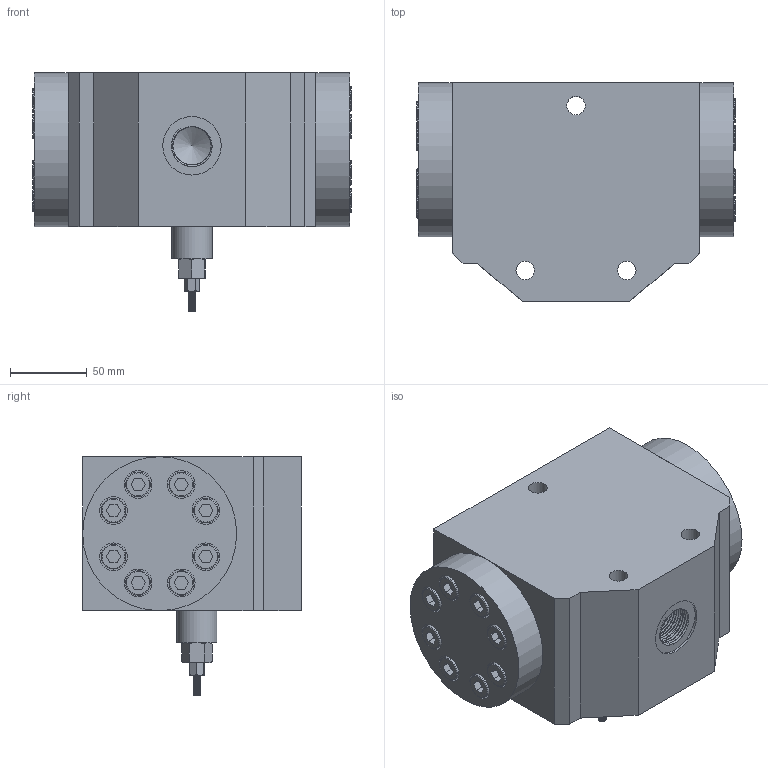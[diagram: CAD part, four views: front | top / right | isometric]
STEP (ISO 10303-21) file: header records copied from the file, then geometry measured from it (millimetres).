
FILE_DESCRIPTION(/* description */ (''),/* implementation_level */ '2;1');
FILE_NAME(/* name */ '6-3.prt.stp',/* time_stamp */ '2023-05-03T13:19:01+08:00',/* author */ (''),/* organization */ (''),/* preprocessor_version */ 'ST-DEVELOPER v16.7',/* originating_system */ 'SIEMENS PLM Software NX 12.0',/* authorisation */ '');
FILE_SCHEMA (('AUTOMOTIVE_DESIGN { 1 0 10303 214 3 1 1 1 }'));
Length unit declared in the file: millimetre
Products named in the file (1): 6-3
Bounding box: 207 x 142 x 155 mm (x, y, z)
Volume: 2399075.7 mm3; surface area: 239438.6 mm2
Topology: 22 solids, 23 shells, 512 faces, 1276 edges, 846 vertices
Faces by surface type: plane 291, cylinder 145, cone 35, torus 30, bspline 11
Full cylindrical faces by diameter (mm): 4.789 x17, 8.5 x16, 10 x16, 11 x16, 12 x3, 16 x16, 18 x16, 26 x1, 31 x2, 38 x1, 100 x2
Entity records: 35644 total; most frequent: CARTESIAN_POINT 24619, DIRECTION 2205, ORIENTED_EDGE 1954, EDGE_CURVE 977, AXIS2_PLACEMENT_3D 821, EDGE_LOOP 764, VERTEX_POINT 742, LINE 563
